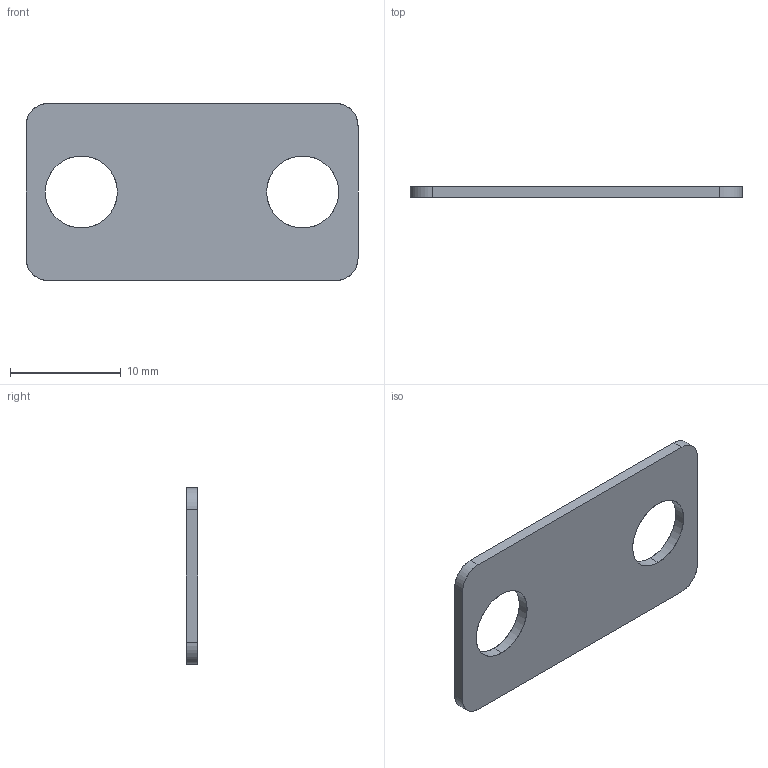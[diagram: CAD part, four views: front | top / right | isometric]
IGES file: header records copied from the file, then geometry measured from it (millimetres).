
Start section: SolidWorks IGES file using analytic representation for surfaces
Global section: file name: C:\Documents and Settings\CAD53\デスクトップ\IGES\N01863-102-1.IGS; native system: SolidWorks 2005 by SolidWorks Corporation; preprocessor: SolidWorks 2005 by SolidWorks Corporation; author: CAD53; date: 070530.105032; units: millimetre
Bounding box: 30 x 1 x 16 mm (x, y, z)
Surface area: 949.8 mm2 (no closed solid volume)
Topology: 0 solids, 0 shells, 14 faces, 248 edges, 248 vertices
Faces by surface type: revolution 8, bspline 6
